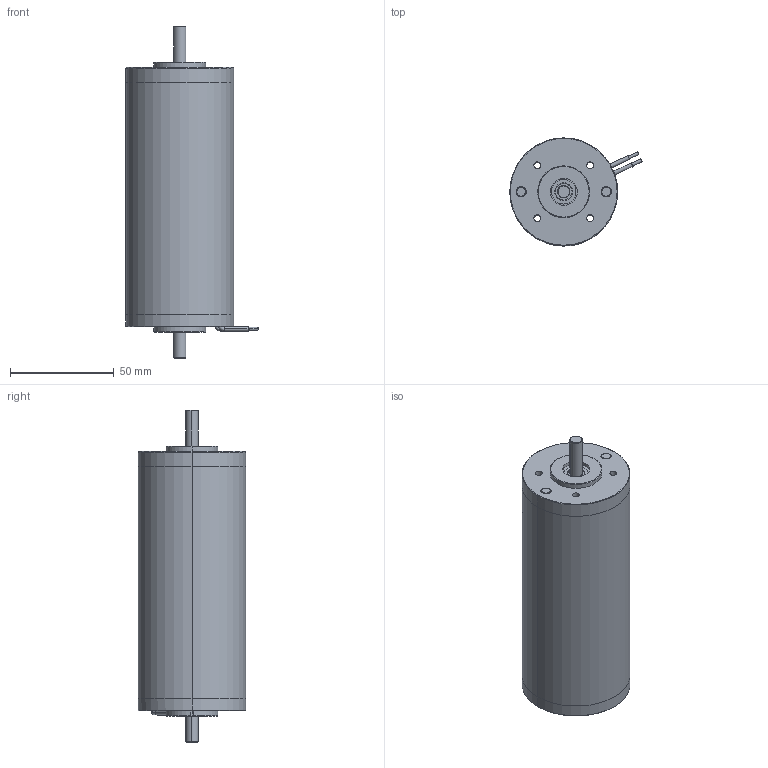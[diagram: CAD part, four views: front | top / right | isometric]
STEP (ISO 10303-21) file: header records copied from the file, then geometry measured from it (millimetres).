
FILE_DESCRIPTION (( 'STEP AP214' ), '1' );
FILE_NAME ('BRx52-58 Motor Assy.STEP', '2023-07-29T11:26:02', ( '' ), ( '' ), 'SwSTEP 2.0', 'SolidWorks 2020', '' );
FILE_SCHEMA (( 'AUTOMOTIVE_DESIGN' ));
Length unit declared in the file: millimetre
Products named in the file (1): BRx52-58 Motor Assy
Bounding box: 63.83 x 52 x 160 mm (x, y, z)
Volume: 85769.6 mm3; surface area: 60957 mm2
Topology: 10 solids, 10 shells, 326 faces, 738 edges, 456 vertices
Faces by surface type: cylinder 151, torus 96, plane 54, cone 25
Entity records: 13074 total; most frequent: DIRECTION 1919, CARTESIAN_POINT 1535, ORIENTED_EDGE 1468, AXIS2_PLACEMENT_3D 864, EDGE_CURVE 734, CIRCLE 537, VERTEX_POINT 456, EDGE_LOOP 390
